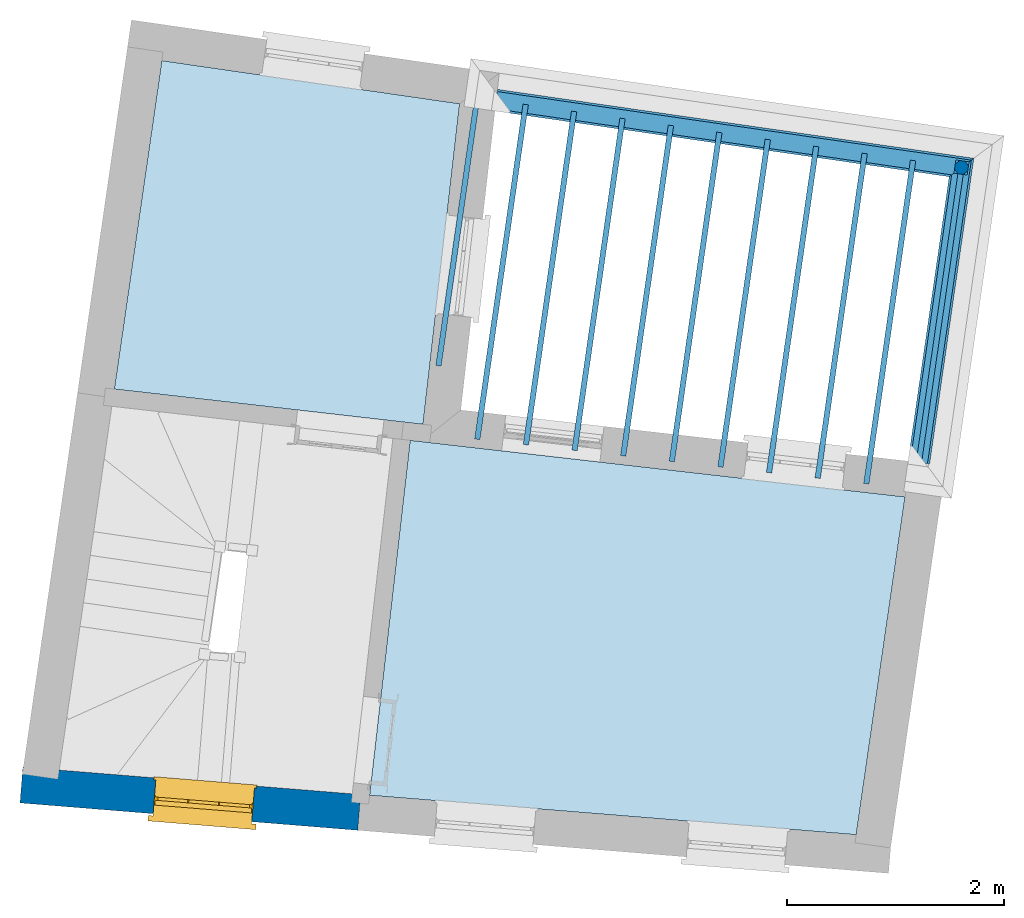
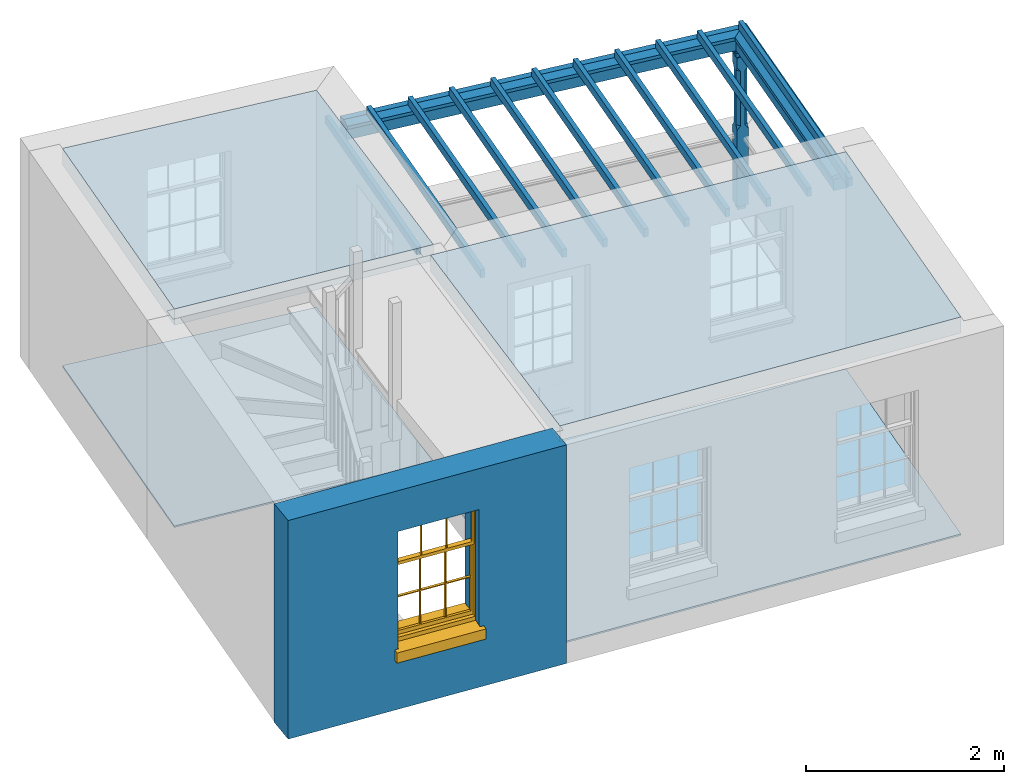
# One storey, part 1 of 5: 15 beams, 4 slabs, 1 column, 1 wall, 1 window, 1 opening.
"""IFC4 building model written with IfcOpenShell, lengths in metres."""

import ifcopenshell
import ifcopenshell.guid

model = None  # the IFC model being written
_history = None  # IfcOwnerHistory: only IFC2X3 demands one
_inside = {}  # id of a spatial element -> (the spatial element, [elements in it])
_under = {}  # id of a project, library or spatial element -> (it, [spatial elements below it])
_declared = {}  # id of a project -> (the project, [libraries it declares])
_typed = {}  # id of a type object -> (the type object, [elements of that type])
_made_of = {}  # id of a material, layer set ... -> (it, [elements and type objects made of it])


def new_model(schema):
    """Start an empty IFC model of exactly this schema.

    Asked for "IFC4X3", IfcOpenShell would pick the latest addendum, in which some entities
    have other attributes; the version numbers below select the first issue.
    IFC2X3 requires an IfcOwnerHistory on every rooted entity: one is made here for all.
    """
    global model, _history
    if schema == "IFC4X3":
        model = ifcopenshell.file(schema_version=(4, 3, 0, 0))
    else:
        model = ifcopenshell.file(schema=schema)
    _inside.clear()
    _under.clear()
    _declared.clear()
    _typed.clear()
    _made_of.clear()
    _history = None
    if model.schema == "IFC2X3":
        org = make("IfcOrganization", Name="unknown")
        user = make(
            "IfcPersonAndOrganization",
            ThePerson=make("IfcPerson", FamilyName="unknown"),
            TheOrganization=org,
        )
        app = make(
            "IfcApplication",
            ApplicationDeveloper=org,
            Version="unknown",
            ApplicationFullName="unknown",
            ApplicationIdentifier="unknown",
        )
        _history = make(
            "IfcOwnerHistory",
            OwningUser=user,
            OwningApplication=app,
            ChangeAction="ADDED",
            CreationDate=0,
        )
    return model


def make(cls, **values):
    """One entity of the class cls with the attributes given. An attribute that is None is left unset."""
    return model.create_entity(
        cls, **{name: value for name, value in values.items() if value is not None}
    )


def rooted(cls, **values):
    """An entity with a GlobalId (a new one), such as an element, a storey or a relation."""
    return make(cls, GlobalId=ifcopenshell.guid.new(), OwnerHistory=_history, **values)


def si_unit(unit_type, name, prefix=None):
    """IfcSIUnit, for example si_unit("LENGTHUNIT", "METRE", prefix="MILLI")."""
    return make("IfcSIUnit", UnitType=unit_type, Prefix=prefix, Name=name)


def assignment(units):
    """IfcUnitAssignment: the units of a project."""
    return None if units is None else make("IfcUnitAssignment", Units=units)


def point(xyz):
    """IfcCartesianPoint."""
    return None if xyz is None else make("IfcCartesianPoint", Coordinates=xyz)


def direction(xyz):
    """IfcDirection."""
    return None if xyz is None else make("IfcDirection", DirectionRatios=xyz)


def frame(location, z_axis=None, x_axis=None):
    """IfcAxis2Placement3D, a coordinate frame: its origin and axes. An axis left out is left unset."""
    return make(
        "IfcAxis2Placement3D",
        Location=point(location),
        Axis=direction(z_axis),
        RefDirection=direction(x_axis),
    )


def origin():
    """The frame at (0, 0, 0) with its axes left unset."""
    return frame((0.0, 0.0, 0.0))


def origin_with_axes():
    """The frame at (0, 0, 0) with the z axis (0, 0, 1) and the x axis (1, 0, 0) written out."""
    return frame((0.0, 0.0, 0.0), z_axis=(0.0, 0.0, 1.0), x_axis=(1.0, 0.0, 0.0))


def place(relative_to, where):
    """IfcLocalPlacement: puts the frame where relative to a parent placement (None: the world)."""
    return make(
        "IfcLocalPlacement", PlacementRelTo=relative_to, RelativePlacement=where
    )


def context(
    kind, dimensions, precision=None, world=None, true_north=None, identifier=None
):
    """IfcGeometricRepresentationContext, for example the 3D "Model" context."""
    return make(
        "IfcGeometricRepresentationContext",
        ContextIdentifier=identifier,
        ContextType=kind,
        CoordinateSpaceDimension=dimensions,
        Precision=precision,
        WorldCoordinateSystem=world,
        TrueNorth=true_north,
    )


def subcontext(parent, identifier, kind, view, scale=None):
    """IfcGeometricRepresentationSubContext, for example "Body" below "Model"."""
    return make(
        "IfcGeometricRepresentationSubContext",
        ContextIdentifier=identifier,
        ContextType=kind,
        ParentContext=parent,
        TargetScale=scale,
        TargetView=view,
    )


def project(units=None, contexts=None):
    """IfcProject with its units and contexts."""
    return rooted(
        "IfcProject",
        Name="project",
        RepresentationContexts=contexts,
        UnitsInContext=assignment(units),
    )


def spatial(cls, under=None, at=None, **own):
    """A site, building, storey or space (cls), placed at a placement, below another one or the project."""
    s = rooted(cls, ObjectPlacement=at, **own)
    if under is not None:
        _under.setdefault(under.id(), (under, []))[1].append(s)
    return s


def polyline(points):
    """IfcPolyline through the points."""
    return make("IfcPolyline", Points=[point(p) for p in points])


def outline(outer, holes=None, kind="AREA"):
    """IfcArbitraryClosedProfileDef: a profile drawn as a closed curve; with holes, ...WithVoids."""
    if holes is None:
        return make("IfcArbitraryClosedProfileDef", ProfileType=kind, OuterCurve=outer)
    return make(
        "IfcArbitraryProfileDefWithVoids",
        ProfileType=kind,
        OuterCurve=outer,
        InnerCurves=holes,
    )


def extrude(swept, where, along, depth):
    """IfcExtrudedAreaSolid: the profile swept, set in the frame where, extruded along a direction by depth."""
    return make(
        "IfcExtrudedAreaSolid",
        SweptArea=swept,
        Position=where,
        ExtrudedDirection=direction(along),
        Depth=depth,
    )


def clip(a, b, op="DIFFERENCE"):
    """IfcBooleanClippingResult: the solid a cut by the half space b."""
    return make(
        "IfcBooleanClippingResult", Operator=op, FirstOperand=a, SecondOperand=b
    )


def halfspace(plane, agree):
    """IfcHalfSpaceSolid: all space on one side of the plane z = 0 of the frame plane."""
    return make(
        "IfcHalfSpaceSolid",
        BaseSurface=make("IfcPlane", Position=plane),
        AgreementFlag=agree,
    )


def faces_of(points, faces, orient=None, outer=None):
    """IfcFace entities. A face is a list of loops; a loop is a list of indices into points, from 0.

    orient and outer hold one flag for each loop. By default every Orientation is true, the
    first loop of a face is its IfcFaceOuterBound and the others are IfcFaceBound.
    """
    made = []
    for i, loops in enumerate(faces):
        bounds = []
        for j, loop in enumerate(loops):
            is_outer = j == 0 if outer is None else outer[i][j]
            bounds.append(
                make(
                    "IfcFaceOuterBound" if is_outer else "IfcFaceBound",
                    Bound=make("IfcPolyLoop", Polygon=[points[k] for k in loop]),
                    Orientation=True if orient is None else orient[i][j],
                )
            )
        made.append(make("IfcFace", Bounds=bounds))
    return made


def faceted_brep(points, faces, orient=None, outer=None, voids=None):
    """IfcFacetedBrep: a solid bounded by flat faces; with voids (closed shells), ...WithVoids."""
    shared = [point(p) for p in points]
    hull = make("IfcClosedShell", CfsFaces=faces_of(shared, faces, orient, outer))
    if voids is None:
        return make("IfcFacetedBrep", Outer=hull)
    return make(
        "IfcFacetedBrepWithVoids",
        Outer=hull,
        Voids=[
            make(cls, CfsFaces=faces_of(shared, fs, o, b)) for cls, fs, o, b in voids
        ],
    )


def shape(context_of_items, identifier, shape_type, items):
    """IfcShapeRepresentation: the items that make up one representation, for example the "Body"."""
    return make(
        "IfcShapeRepresentation",
        ContextOfItems=context_of_items,
        RepresentationIdentifier=identifier,
        RepresentationType=shape_type,
        Items=items,
    )


def source(mapping_origin, context_of_items, identifier, shape_type, items):
    """IfcRepresentationMap: a shape defined once, which mapped items show again and again."""
    return make(
        "IfcRepresentationMap",
        MappingOrigin=mapping_origin,
        MappedRepresentation=shape(context_of_items, identifier, shape_type, items),
    )


def transform(
    local_origin,
    x_axis=None,
    y_axis=None,
    z_axis=None,
    scale=None,
    scale2=None,
    scale3=None,
    uniform=True,
):
    """IfcCartesianTransformationOperator3D, or its non-uniform kind. x_axis, y_axis, z_axis: its Axis1, 2, 3."""
    if uniform:
        return make(
            "IfcCartesianTransformationOperator3D",
            Axis1=direction(x_axis),
            Axis2=direction(y_axis),
            LocalOrigin=point(local_origin),
            Scale=scale,
            Axis3=direction(z_axis),
        )
    return make(
        "IfcCartesianTransformationOperator3DnonUniform",
        Axis1=direction(x_axis),
        Axis2=direction(y_axis),
        LocalOrigin=point(local_origin),
        Scale=scale,
        Axis3=direction(z_axis),
        Scale2=scale2,
        Scale3=scale3,
    )


def mapped(mapping_source, mapping_target):
    """IfcMappedItem: shows the shape of a source again, moved by a transform."""
    return make(
        "IfcMappedItem", MappingSource=mapping_source, MappingTarget=mapping_target
    )


def material(Name=None, Category=None):
    """IfcMaterial."""
    return make("IfcMaterial", Name=Name, Category=Category)


def layer(
    of_material, thickness, ventilated=None, Name=None, Category=None, Priority=None
):
    """IfcMaterialLayer: one layer of a wall or slab, of a material (None: an air gap)."""
    return make(
        "IfcMaterialLayer",
        Material=of_material,
        LayerThickness=thickness,
        IsVentilated=ventilated,
        Name=Name,
        Category=Category,
        Priority=Priority,
    )


def layer_set(layers, Name=None):
    """IfcMaterialLayerSet."""
    return make("IfcMaterialLayerSet", MaterialLayers=layers, LayerSetName=Name)


def layer_usage(for_layer_set, set_direction, sense, offset, extent=None):
    """IfcMaterialLayerSetUsage: how a layer set lies in its element."""
    return make(
        "IfcMaterialLayerSetUsage",
        ForLayerSet=for_layer_set,
        LayerSetDirection=set_direction,
        DirectionSense=sense,
        OffsetFromReferenceLine=offset,
        ReferenceExtent=extent,
    )


def material_profile(
    of_material, cross_section, Name=None, Category=None, Priority=None
):
    """IfcMaterialProfile: a cross section and its material."""
    return make(
        "IfcMaterialProfile",
        Name=Name,
        Material=of_material,
        Profile=cross_section,
        Priority=Priority,
        Category=Category,
    )


def profile_set(profiles, Name=None, composite=None):
    """IfcMaterialProfileSet."""
    return make(
        "IfcMaterialProfileSet",
        Name=Name,
        MaterialProfiles=profiles,
        CompositeProfile=composite,
    )


def profile_usage(for_profile_set, cardinal=None, extent=None):
    """IfcMaterialProfileSetUsage: how a profile set lies along its element."""
    return make(
        "IfcMaterialProfileSetUsage",
        ForProfileSet=for_profile_set,
        CardinalPoint=cardinal,
        ReferenceExtent=extent,
    )


def made_of(thing, what):
    """Note that an element or type object is made of a material, layer set ...; save() writes the relation."""
    if what is not None:
        _made_of.setdefault(what.id(), (what, []))[1].append(thing)
    return thing


def type_object(cls, material=None, **own):
    """A type object (cls), such as IfcWallType, which elements share."""
    return made_of(rooted(cls, **own), material)


def type_shapes(of_type, sources):
    """Give a type object the sources (RepresentationMaps) that its elements show as mapped items."""
    of_type.RepresentationMaps = sources


def element(
    cls,
    number,
    at=None,
    inside=None,
    cuts=None,
    type_object=None,
    material=None,
    context=None,
    identifier="Body",
    shape_type=None,
    held_by="IfcProductDefinitionShape",
    body=None,
    shapes=None,
    **own,
):
    """One element of the class cls, such as IfcWall. Its Tag is "e" and its number.

    at: its placement. inside: the storey or other place that contains it. cuts: it is an
    opening in that element (IfcRelVoidsElement). A single representation is given by context,
    identifier, shape_type and body (its items); several are given by shapes. held_by: the class
    of the entity that holds the representations. save() writes the other relations.
    """
    e = rooted(cls, Tag="e%d" % number, ObjectPlacement=at, **own)
    if body is not None:
        shapes = [shape(context, identifier, shape_type, body)]
    if shapes is not None:
        e.Representation = make(held_by, Representations=shapes)
    if inside is not None:
        _inside.setdefault(inside.id(), (inside, []))[1].append(e)
    if cuts is not None:
        rooted(
            "IfcRelVoidsElement", RelatingBuildingElement=cuts, RelatedOpeningElement=e
        )
    if type_object is not None:
        _typed.setdefault(type_object.id(), (type_object, []))[1].append(e)
    return made_of(e, material)


def fill(opening, filler):
    """IfcRelFillsElement: the door or window that sits in an opening."""
    return rooted(
        "IfcRelFillsElement",
        RelatingOpeningElement=opening,
        RelatedBuildingElement=filler,
    )


def aggregate(whole, parts):
    """IfcRelAggregates: a whole, such as a stair, and the parts it consists of."""
    return rooted("IfcRelAggregates", RelatingObject=whole, RelatedObjects=parts)


def save(model, path):
    """Write the relations noted so far, then the file.

    IfcRelAggregates (storeys below a building ...), IfcRelContainedInSpatialStructure (elements
    in a storey), IfcRelDefinesByType, IfcRelAssociatesMaterial and IfcRelDeclares: one each for
    every whole, place, type object, material and project.
    """
    for whole, parts in _under.values():
        aggregate(whole, parts)
    for where, things in _inside.values():
        rooted(
            "IfcRelContainedInSpatialStructure",
            RelatedElements=things,
            RelatingStructure=where,
        )
    for kind, things in _typed.values():
        rooted("IfcRelDefinesByType", RelatedObjects=things, RelatingType=kind)
    for what, things in _made_of.values():
        rooted("IfcRelAssociatesMaterial", RelatedObjects=things, RelatingMaterial=what)
    for by, libraries in _declared.values():
        rooted("IfcRelDeclares", RelatingContext=by, RelatedDefinitions=libraries)
    model.write(path)


model = new_model("IFC4")

# Units and contexts
model_context = context("Model", 3, world=origin_with_axes())
body_context = subcontext(model_context, "Body", "Model", "MODEL_VIEW")
ifc_project = project(units=[si_unit("PLANEANGLEUNIT", "RADIAN"), si_unit("MASSUNIT", "GRAM", prefix="KILO"), si_unit("FORCEUNIT", "NEWTON", prefix="KILO"), si_unit("LENGTHUNIT", "METRE"), si_unit("AREAUNIT", "SQUARE_METRE"), si_unit("VOLUMEUNIT", "CUBIC_METRE")], contexts=[model_context, model_context])

# Sites, building, storey
site_1_placement = place(None, origin_with_axes())
site_1 = spatial("IfcSite", under=ifc_project, at=site_1_placement, Name="Tamar")
site_2_placement = place(site_1_placement, origin_with_axes())
site_2 = spatial("IfcSite", under=site_1, at=site_2_placement, Name="Site plot-31", CompositionType="ELEMENT")
building_placement = place(None, origin_with_axes())
building = spatial("IfcBuilding", under=site_2, at=building_placement, Name="Building plot-31", CompositionType="ELEMENT")
storey_placement = place(None, frame((0.0, 0.0, 28.65), z_axis=(0.0, 0.0, 1.0), x_axis=(1.0, 0.0, 0.0)))
storey = spatial("IfcBuildingStorey", under=building, at=storey_placement, Name="plot-31 1", CompositionType="ELEMENT", Elevation=28.65)

# Column
column_type = type_object("IfcColumnType", Name="pergola post", PredefinedType="NOTDEFINED")
shared_shape_1 = source(origin(), body_context, "Body", "Brep", [
    faceted_brep([(0.0246, -0.0615, 1.72), (0.0615, -0.0246, 1.72), (0.0615, -0.0615, 1.766667), (0.0615, -0.0246, 1.044444), (0.0246, -0.0615, 1.044444), (0.0615, 0.0246, 1.72), (0.0615, 0.0615, 1.766667), (-0.0246, -0.0615, 1.72), (-0.0615, -0.0615, 1.766667), (-0.0246, -0.0615, 1.044444), (0.0615, -0.0615, 0.997778), (0.0615, 0.0246, 1.044444), (0.0246, 0.0615, 1.72), (0.0615, 0.0615, 1.891111), (0.0615, -0.0615, 1.891111), (-0.0615, -0.0615, 1.891111), (-0.0615, -0.0246, 1.72), (-0.0615, -0.0246, 1.044444), (-0.0615, -0.0615, 0.997778), (0.0615, 0.0615, 0.997778), (0.0246, 0.0615, 1.044444), (-0.0246, 0.0615, 1.72), (-0.0615, 0.0615, 1.766667), (0.04305, 0.04305, 1.891111), (0.04305, -0.04305, 1.891111), (-0.0615, 0.0615, 1.891111), (-0.04305, -0.04305, 1.891111), (-0.0615, 0.0246, 1.72), (-0.0615, 0.0246, 1.044444), (0.0615, -0.0615, 0.053333), (-0.0615, -0.0615, 0.053333), (0.0615, 0.0615, 0.053333), (-0.0246, 0.0615, 1.044444), (-0.04305, 0.04305, 1.891111), (0.04305, 0.04305, 1.914444), (0.04305, -0.04305, 1.914444), (-0.04305, -0.04305, 1.914444), (-0.0615, 0.0615, 0.997778), (-0.0615, 0.0615, 0.053333), (-0.04305, -0.04305, 0.053333), (0.04305, -0.04305, 0.053333), (0.04305, 0.04305, 0.053333), (-0.04305, 0.04305, 1.914444), (0.07995, 0.07995, 1.914444), (0.07995, -0.07995, 1.914444), (-0.07995, -0.07995, 1.914444), (-0.04305, 0.04305, 0.053333), (-0.04305, -0.04305, 0.0), (0.04305, -0.04305, 0.0), (0.04305, 0.04305, 0.0), (-0.07995, 0.07995, 1.914444), (0.07995, 0.07995, 1.976667), (0.07995, -0.07995, 1.976667), (-0.07995, -0.07995, 1.976667), (-0.04305, 0.04305, 0.0), (-0.07995, 0.07995, 1.976667), (0.0984, 0.0984, 1.976667), (0.0984, -0.0984, 1.976667), (-0.0984, -0.0984, 1.976667), (-0.0984, 0.0984, 1.976667), (0.0984, 0.0984, 2.0), (0.0984, -0.0984, 2.0), (-0.0984, -0.0984, 2.0), (-0.0984, 0.0984, 2.0)], [[[0, 1, 2]], [[3, 1, 0, 4]], [[1, 5, 6, 2]], [[7, 0, 2, 8]], [[4, 0, 7, 9]], [[3, 4, 10]], [[1, 3, 11, 5]], [[5, 12, 6]], [[13, 14, 2, 6]], [[15, 8, 2, 14]], [[8, 16, 7]], [[9, 7, 16, 17]], [[9, 18, 10, 4]], [[3, 10, 19, 11]], [[20, 12, 5, 11]], [[21, 22, 6, 12]], [[14, 13, 23, 24]], [[13, 6, 22, 25]], [[25, 22, 8, 15]], [[26, 15, 14, 24]], [[16, 8, 22, 27]], [[27, 28, 17, 16]], [[17, 18, 9]], [[29, 10, 18, 30]], [[31, 19, 10, 29]], [[20, 11, 19]], [[12, 20, 32, 21]], [[21, 27, 22]], [[33, 23, 13, 25]], [[23, 34, 35, 24]], [[26, 33, 25, 15]], [[36, 26, 24, 35]], [[28, 27, 21, 32]], [[17, 28, 37, 18]], [[38, 30, 18, 37]], [[29, 30, 39, 40]], [[31, 38, 37, 19]], [[40, 41, 31, 29]], [[32, 20, 19, 37]], [[33, 42, 34, 23]], [[43, 44, 35, 34]], [[42, 33, 26, 36]], [[36, 35, 44, 45]], [[28, 32, 37]], [[46, 39, 30, 38]], [[39, 47, 48, 40]], [[46, 38, 31, 41]], [[49, 41, 40, 48]], [[43, 34, 42, 50]], [[43, 51, 52, 44]], [[45, 50, 42, 36]], [[53, 45, 44, 52]], [[46, 54, 47, 39]], [[54, 46, 41, 49]], [[50, 55, 51, 43]], [[56, 57, 52, 51]], [[55, 50, 45, 53]], [[53, 52, 57, 58]], [[56, 51, 55, 59]], [[56, 60, 61, 57]], [[58, 59, 55, 53]], [[62, 58, 57, 61]], [[59, 63, 60, 56]], [[63, 62, 61, 60]], [[58, 62, 63, 59]], [[47, 54, 49, 48]]]),
])
type_shapes(column_type, [shared_shape_1])
column_placement = place(storey_placement, frame((300.849616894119, 263.500744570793, 0.0), z_axis=(0.0, 0.0, 1.0), x_axis=(-0.989705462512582, 0.143119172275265, 0.0)))
element("IfcColumn", 1, at=column_placement, inside=storey, type_object=column_type, Name="pergola post", context=body_context, shape_type="MappedRepresentation", body=[
    mapped(shared_shape_1, transform((0.0, 0.0, 0.0), scale=1.0)),
])

# Beams
ifc_material_profile_1 = material_profile(None, outline(polyline([(-0.08, -0.7), (0.08, -0.7), (0.08, -0.56), (-0.08, -0.56), (-0.08, -0.7)])))
ifc_profile_set_1 = profile_set([ifc_material_profile_1])
ifc_profile_usage_1 = profile_usage(ifc_profile_set_1)
beam_type_1 = type_object("IfcBeamType", Name="pergola beam_0", PredefinedType="NOTDEFINED", material=ifc_profile_set_1)
beam_1_placement = place(storey_placement, frame((300.992736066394, 264.490450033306, 2.7), z_axis=(-0.143119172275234, -0.989705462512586, 0.0), x_axis=(0.989705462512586, -0.143119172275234, 0.0)))
element("IfcBeam", 2, at=beam_1_placement, inside=storey, type_object=beam_type_1, material=ifc_profile_usage_1, Name="pergola beam_0", context=body_context, shape_type="Clipping", body=[
    clip(clip(extrude(outline(polyline([(-0.08, -0.7), (0.08, -0.7), (0.08, -0.56), (-0.08, -0.56), (-0.08, -0.7)])), origin_with_axes(), (0.0, 0.0, 1.0), 4.74029362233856), halfspace(frame((0.0, 0.0, 3.74029362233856), z_axis=(1.59259792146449e-14, 0.0, -1.0), x_axis=(0.0, 1.0, 0.0)), True)), halfspace(frame((0.0, 0.0, 1.0), z_axis=(-0.707106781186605, 0.0, -0.707106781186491), x_axis=(0.0, 1.0, 0.0)), False)),
])
ifc_profile_usage_2 = profile_usage(ifc_profile_set_1)
beam_2_placement = place(storey_placement, frame((295.579928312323, 264.262782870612, 2.7), z_axis=(0.989705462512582, -0.143119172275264, 0.0), x_axis=(0.143119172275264, 0.989705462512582, 0.0)))
element("IfcBeam", 3, at=beam_2_placement, inside=storey, type_object=beam_type_1, material=ifc_profile_usage_2, Name="pergola beam_0", context=body_context, shape_type="Clipping", body=[
    clip(clip(extrude(outline(polyline([(-0.08, -0.7), (0.08, -0.7), (0.08, -0.56), (-0.08, -0.56), (-0.08, -0.7)])), origin_with_axes(), (0.0, 0.0, 1.0), 6.32450186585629), halfspace(frame((0.0, 0.0, 5.32450186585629), z_axis=(0.707106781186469, 0.0, -0.707106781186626), x_axis=(0.0, 1.0, 0.0)), True)), halfspace(frame((0.0, 0.0, 1.0), z_axis=(-1.47161762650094e-14, 0.0, -1.0), x_axis=(0.0, 1.0, 0.0)), False)),
])
ifc_material_profile_2 = material_profile(None, outline(polyline([(0.0, -0.5), (-0.1, -0.52), (-0.1, -0.56), (0.1, -0.56), (0.1, -0.52), (0.0, -0.5)])))
ifc_profile_set_2 = profile_set([ifc_material_profile_2])
ifc_profile_usage_3 = profile_usage(ifc_profile_set_2)
beam_type_2 = type_object("IfcBeamType", Name="pergola beam_1", PredefinedType="NOTDEFINED", material=ifc_profile_set_2)
beam_3_placement = place(storey_placement, frame((300.992736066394, 264.490450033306, 2.7), z_axis=(-0.143119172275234, -0.989705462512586, 0.0), x_axis=(0.989705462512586, -0.143119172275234, 0.0)))
element("IfcBeam", 4, at=beam_3_placement, inside=storey, type_object=beam_type_2, material=ifc_profile_usage_3, Name="pergola beam_1", context=body_context, shape_type="Clipping", body=[
    clip(clip(extrude(outline(polyline([(0.0, -0.5), (-0.1, -0.52), (-0.1, -0.56), (0.1, -0.56), (0.1, -0.52), (0.0, -0.5)])), origin_with_axes(), (0.0, 0.0, 1.0), 4.74029362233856), halfspace(frame((0.0, 0.0, 3.74029362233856), z_axis=(1.59259792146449e-14, 0.0, -1.0), x_axis=(0.0, 1.0, 0.0)), True)), halfspace(frame((0.0, 0.0, 1.0), z_axis=(-0.707106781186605, 0.0, -0.707106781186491), x_axis=(0.0, 1.0, 0.0)), False)),
])
ifc_profile_usage_4 = profile_usage(ifc_profile_set_2)
beam_4_placement = place(storey_placement, frame((295.579928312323, 264.262782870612, 2.7), z_axis=(0.989705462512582, -0.143119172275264, 0.0), x_axis=(0.143119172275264, 0.989705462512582, 0.0)))
element("IfcBeam", 5, at=beam_4_placement, inside=storey, type_object=beam_type_2, material=ifc_profile_usage_4, Name="pergola beam_1", context=body_context, shape_type="Clipping", body=[
    clip(clip(extrude(outline(polyline([(0.0, -0.5), (-0.1, -0.52), (-0.1, -0.56), (0.1, -0.56), (0.1, -0.52), (0.0, -0.5)])), origin_with_axes(), (0.0, 0.0, 1.0), 6.32450186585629), halfspace(frame((0.0, 0.0, 5.32450186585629), z_axis=(0.707106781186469, 0.0, -0.707106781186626), x_axis=(0.0, 1.0, 0.0)), True)), halfspace(frame((0.0, 0.0, 1.0), z_axis=(-1.47161762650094e-14, 0.0, -1.0), x_axis=(0.0, 1.0, 0.0)), False)),
])
beam_5_placement = place(storey_placement, frame((300.874359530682, 263.497166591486, 2.2)))
element("IfcBeam", 6, at=beam_5_placement, inside=storey, Name="My Beam", ObjectType="Beam", context=body_context, shape_type="SweptSolid", body=[
    extrude(outline(polyline([(0.0, 0.0), (-0.0494852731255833, 0.0071559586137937), (-0.477453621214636, -2.95235397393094), (-0.427968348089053, -2.95950993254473), (0.0, 0.0)])), origin_with_axes(), (0.0, 0.0, 1.0), 0.1),
])
beam_6_placement = place(storey_placement, frame((300.428992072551, 263.56157021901, 2.2)))
element("IfcBeam", 7, at=beam_6_placement, inside=storey, Name="My Beam", ObjectType="Beam", context=body_context, shape_type="SweptSolid", body=[
    extrude(outline(polyline([(0.0, 0.0), (-0.0494852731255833, 0.0071559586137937), (-0.479377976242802, -2.96566137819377), (-0.429892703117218, -2.97281733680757), (0.0, 0.0)])), origin_with_axes(), (0.0, 0.0, 1.0), 0.1),
])
beam_7_placement = place(storey_placement, frame((299.98362461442, 263.625973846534, 2.2)))
element("IfcBeam", 8, at=beam_7_placement, inside=storey, Name="My Beam", ObjectType="Beam", context=body_context, shape_type="SweptSolid", body=[
    extrude(outline(polyline([(0.0, 0.0), (-0.0494852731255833, 0.0071559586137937), (-0.481302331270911, -2.97896878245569), (-0.431817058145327, -2.98612474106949), (0.0, 0.0)])), origin_with_axes(), (0.0, 0.0, 1.0), 0.1),
])
beam_8_placement = place(storey_placement, frame((299.53825715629, 263.690377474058, 2.2)))
element("IfcBeam", 9, at=beam_8_placement, inside=storey, Name="My Beam", ObjectType="Beam", context=body_context, shape_type="SweptSolid", body=[
    extrude(outline(polyline([(0.0, 0.0), (-0.0494852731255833, 0.0071559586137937), (-0.483226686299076, -2.99227618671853), (-0.433741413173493, -2.99943214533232), (0.0, 0.0)])), origin_with_axes(), (0.0, 0.0, 1.0), 0.1),
])
beam_9_placement = place(storey_placement, frame((299.092889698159, 263.754781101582, 2.2)))
element("IfcBeam", 10, at=beam_9_placement, inside=storey, Name="My Beam", ObjectType="Beam", context=body_context, shape_type="SweptSolid", body=[
    extrude(outline(polyline([(0.0, 0.0), (-0.0494852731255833, 0.0071559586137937), (-0.485151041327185, -3.0055835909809), (-0.435665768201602, -3.0127395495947), (0.0, 0.0)])), origin_with_axes(), (0.0, 0.0, 1.0), 0.1),
])
beam_10_placement = place(storey_placement, frame((298.647522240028, 263.819184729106, 2.2)))
element("IfcBeam", 11, at=beam_10_placement, inside=storey, Name="My Beam", ObjectType="Beam", context=body_context, shape_type="SweptSolid", body=[
    extrude(outline(polyline([(0.0, 0.0), (-0.0494852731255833, 0.0071559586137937), (-0.487075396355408, -3.01889099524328), (-0.437590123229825, -3.02604695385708), (0.0, 0.0)])), origin_with_axes(), (0.0, 0.0, 1.0), 0.1),
])
beam_11_placement = place(storey_placement, frame((298.202154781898, 263.88358835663, 2.2)))
element("IfcBeam", 12, at=beam_11_placement, inside=storey, Name="My Beam", ObjectType="Beam", context=body_context, shape_type="SweptSolid", body=[
    extrude(outline(polyline([(0.0, 0.0), (-0.0494852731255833, 0.0071559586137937), (-0.488999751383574, -3.03219839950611), (-0.439514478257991, -3.03935435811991), (0.0, 0.0)])), origin_with_axes(), (0.0, 0.0, 1.0), 0.1),
])
beam_12_placement = place(storey_placement, frame((297.756787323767, 263.947991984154, 2.2)))
element("IfcBeam", 13, at=beam_12_placement, inside=storey, Name="My Beam", ObjectType="Beam", context=body_context, shape_type="SweptSolid", body=[
    extrude(outline(polyline([(0.0, 0.0), (-0.0494852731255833, 0.0071559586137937), (-0.49092410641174, -3.04550580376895), (-0.441438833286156, -3.05266176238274), (0.0, 0.0)])), origin_with_axes(), (0.0, 0.0, 1.0), 0.1),
])
beam_13_placement = place(storey_placement, frame((297.311419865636, 264.012395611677, 2.2)))
element("IfcBeam", 14, at=beam_13_placement, inside=storey, Name="My Beam", ObjectType="Beam", context=body_context, shape_type="SweptSolid", body=[
    extrude(outline(polyline([(0.0, 0.0), (-0.0494852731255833, 0.0071559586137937), (-0.492848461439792, -3.05881320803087), (-0.443363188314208, -3.06596916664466), (0.0, 0.0)])), origin_with_axes(), (0.0, 0.0, 1.0), 0.1),
])
beam_14_placement = place(storey_placement, frame((296.866052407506, 264.076799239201, 2.2)))
element("IfcBeam", 15, at=beam_14_placement, inside=storey, Name="My Beam", ObjectType="Beam", context=body_context, shape_type="SweptSolid", body=[
    extrude(outline(polyline([(0.0, 0.0), (-0.0494852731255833, 0.0071559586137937), (-0.494772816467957, -3.07212061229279), (-0.445287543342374, -3.07927657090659), (0.0, 0.0)])), origin_with_axes(), (0.0, 0.0, 1.0), 0.1),
])
beam_15_placement = place(storey_placement, frame((296.420684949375, 264.141202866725, 2.2)))
element("IfcBeam", 16, at=beam_15_placement, inside=storey, Name="My Beam", ObjectType="Beam", context=body_context, shape_type="SweptSolid", body=[
    extrude(outline(polyline([(0.0, 0.0), (-0.0494852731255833, 0.0071559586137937), (-0.406338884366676, -2.46057748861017), (-0.356853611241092, -2.46773344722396), (0.0, 0.0)])), origin_with_axes(), (0.0, 0.0, 1.0), 0.1),
])

# Slabs
slab_1_placement = place(storey_placement, frame((300.330675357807, 260.471106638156, 2.5)))
element("IfcSlab", 17, at=slab_1_placement, inside=storey, Name="My Slab", ObjectType="Slab", PredefinedType="FLOOR", context=body_context, shape_type="SweptSolid", body=[
    extrude(outline(polyline([(0.0, 0.0), (-4.55208858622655, 0.52000624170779), (-4.92496413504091, -2.74411328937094), (-0.449277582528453, -3.10686870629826), (0.0, 0.0)])), origin_with_axes(), (0.0, 0.0, 1.0), 0.2),
])
slab_2_placement = place(storey_placement, frame((300.330675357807, 260.471106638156, 0.0)))
element("IfcSlab", 18, at=slab_2_placement, inside=storey, Name="My Slab", ObjectType="Slab", PredefinedType="FLOOR", context=body_context, shape_type="SweptSolid", body=[
    extrude(outline(polyline([(0.0, 0.0), (-4.55208858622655, 0.52000624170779), (-4.92496413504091, -2.74411328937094), (-0.449277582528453, -3.10686870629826), (0.0, 0.0)])), origin_with_axes(), (0.0, 0.0, 1.0), 0.02),
])
slab_3_placement = place(storey_placement, frame((296.233911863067, 264.087379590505, 2.5)))
element("IfcSlab", 19, at=slab_3_placement, inside=storey, Name="My Slab", ObjectType="Slab", PredefinedType="FLOOR", context=body_context, shape_type="SweptSolid", body=[
    extrude(outline(polyline([(0.0, 0.0), (-2.73935903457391, 0.396132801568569), (-3.17615368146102, -2.62441323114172), (-0.336850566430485, -2.94876002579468), (0.0, 0.0)])), origin_with_axes(), (0.0, 0.0, 1.0), 0.2),
])
slab_4_placement = place(storey_placement, frame((296.233911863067, 264.087379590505, 0.0)))
element("IfcSlab", 20, at=slab_4_placement, inside=storey, Name="My Slab", ObjectType="Slab", PredefinedType="FLOOR", context=body_context, shape_type="SweptSolid", body=[
    extrude(outline(polyline([(0.0, 0.0), (-2.73935903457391, 0.396132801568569), (-3.17615368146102, -2.62441323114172), (-0.336850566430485, -2.94876002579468), (0.0, 0.0)])), origin_with_axes(), (0.0, 0.0, 1.0), 0.02),
])

# Wall, opening, window
ifc_material = material(Name="Masonry")
ifc_layer = layer(ifc_material, 0.33, ventilated=False)
ifc_layer_set = layer_set([ifc_layer], Name="exterior_0.08_0.25")
ifc_layer_usage = layer_usage(ifc_layer_set, "AXIS2", "POSITIVE", -0.25)
wall_type = type_object("IfcWallType", Name="exterior_0.08_0.25", PredefinedType="SOLIDWALL", material=ifc_layer_set)
wall_placement = place(storey_placement, frame((292.459598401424, 257.885514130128, 0.0), z_axis=(0.0, 0.0, 1.0), x_axis=(0.996731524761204, -0.0807853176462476, 0.0)))
wall = element("IfcWall", 21, at=wall_placement, inside=storey, type_object=wall_type, material=ifc_layer_usage, Name="exterior", context=body_context, shape_type="SweptSolid", body=[
    extrude(outline(polyline([(-0.249999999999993, 0.0800000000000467), (-0.25000000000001, -0.249999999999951), (2.86661604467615, -0.249999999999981), (2.86661604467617, 0.0800000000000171), (-0.249999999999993, 0.0800000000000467)])), origin_with_axes(), (0.0, 0.0, 1.0), 2.7),
])
opening_placement = place(wall_placement, frame((0.978308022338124, 0.0, 0.75)))
opening = element("IfcOpeningElement", 22, at=opening_placement, cuts=wall, Name="My Opening", ObjectType="Opening", context=body_context, shape_type="SweptSolid", body=[
    extrude(outline(polyline([(0.0, -0.270000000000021), (0.909999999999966, -0.26999999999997), (0.909999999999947, 1.10000000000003), (-1.97619698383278e-14, 1.09999999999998), (0.0, -0.270000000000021)])), origin_with_axes(), (0.0, 0.0, 1.0), 1.445),
])
window_type = type_object("IfcWindowType", Name="sash_shorter", PartitioningType="DOUBLE_PANEL_HORIZONTAL", PredefinedType="NOTDEFINED")
shared_shape_2 = source(origin(), body_context, "Body", "Brep", [
    faceted_brep([(0.876875, 0.145, 0.999097), (0.876875, 0.145, 1.411875), (0.9, 0.145, 1.435), (0.033125, 0.145, 1.411875), (0.033125, 0.145, 0.999097), (0.01, 0.145, 1.435), (0.033125, 0.115, 1.411875), (0.01, 0.115, 1.435), (0.033125, 0.115, 0.999097), (0.876875, 0.115, 1.411875), (0.876875, 0.115, 0.999097), (0.9, 0.115, 1.435), (0.033125, 0.145, 0.960972), (0.01, 0.145, 0.960972), (0.033125, 0.145, 0.548195), (0.876875, 0.145, 0.960972), (0.876875, 0.145, 0.548195), (0.9, 0.145, 0.960972), (0.876875, 0.145, 0.538195), (0.876875, 0.145, 0.125417), (0.9, 0.145, 0.077167), (0.033125, 0.145, 0.125417), (0.033125, 0.145, 0.538195), (0.01, 0.145, 0.077167), (0.9, 0.115, 0.960972), (0.01, 0.115, 0.960972), (-0.0425, 0.0, 0.01), (-0.0425, -0.05, 0.001667), (0.0, 0.0, 0.01), (0.9525, 0.0, 0.01), (0.91, 0.0, 0.01), (0.9525, -0.05, 0.001667), (-0.02, 0.33, 0.077167), (0.0, 0.33, 0.077167), (-0.02, 0.36, 0.077167), (0.0, 0.19, 0.077167), (0.01, 0.19, 0.077167), (0.91, 0.19, 0.077167), (0.91, 0.33, 0.077167), (0.9, 0.19, 0.077167), (0.93, 0.33, 0.077167), (0.93, 0.36, 0.077167), (0.01, 0.145, 0.999097), (0.01, 0.175, 0.999097), (0.9, 0.145, 0.999097), (0.9, 0.175, 0.999097), (0.876875, 0.175, 0.125417), (0.876875, 0.175, 0.538195), (0.9, 0.175, 0.077167), (0.876875, 0.175, 0.548195), (0.876875, 0.175, 0.960972), (0.033125, 0.175, 0.125417), (0.01, 0.175, 0.077167), (0.033125, 0.175, 0.538195), (0.033125, 0.175, 0.960972), (0.033125, 0.175, 0.548195), (-0.02, 0.33, 0.052167), (-0.02, 0.36, 0.052167), (0.93, 0.36, 0.052167), (0.93, 0.33, 0.052167), (0.91, 0.33, 0.052167), (0.0, 0.33, 0.052167), (0.91, 0.1, 0.026667), (0.0, 0.1, 0.026667), (-0.0425, -0.05, -0.123333), (0.9525, -0.05, -0.123333), (-0.0425, 0.0, -0.123333), (0.9525, 0.0, -0.123333), (0.01, 0.19, 1.435), (0.9, 0.19, 1.435), (0.0, 0.19, 1.445), (0.91, 0.19, 1.445), (0.01, 0.1, 0.077167), (0.9, 0.1, 0.077167), (0.592292, 0.145, 0.125417), (0.592292, 0.175, 0.125417), (0.317708, 0.175, 0.125417), (0.317708, 0.145, 0.125417), (0.592292, 0.145, 0.548195), (0.317708, 0.145, 0.548195), (0.317708, 0.145, 0.538195), (0.592292, 0.145, 0.538195), (0.592292, 0.175, 0.548195), (0.317708, 0.175, 0.548195), (0.602292, 0.175, 0.548195), (0.602292, 0.145, 0.548195), (0.317708, 0.175, 0.538195), (0.307708, 0.175, 0.125417), (0.307708, 0.175, 0.538195), (0.602292, 0.175, 0.538195), (0.602292, 0.175, 0.125417), (0.592292, 0.175, 0.538195), (0.307708, 0.175, 0.548195), (0.317708, 0.175, 0.960972), (0.307708, 0.175, 0.960972), (0.602292, 0.175, 0.960972), (0.592292, 0.175, 0.960972), (0.307708, 0.145, 0.538195), (0.307708, 0.145, 0.125417), (0.307708, 0.145, 0.548195), (0.307708, 0.145, 0.960972), (0.592292, 0.145, 0.960972), (0.317708, 0.145, 0.960972), (0.602292, 0.145, 0.960972), (0.602292, 0.145, 0.538195), (0.602292, 0.145, 0.125417), (0.317708, 0.115, 1.411875), (0.307708, 0.115, 1.411875), (0.307708, 0.115, 0.999097), (0.317708, 0.115, 0.999097), (0.602292, 0.115, 1.411875), (0.592292, 0.115, 1.411875), (0.592292, 0.115, 0.999097), (0.602292, 0.115, 0.999097), (0.317708, 0.145, 0.999097), (0.307708, 0.145, 0.999097), (0.307708, 0.145, 1.411875), (0.317708, 0.145, 1.411875), (0.602292, 0.145, 0.999097), (0.592292, 0.145, 0.999097), (0.592292, 0.145, 1.411875), (0.602292, 0.145, 1.411875), (0.91, 0.1, 1.445), (0.9, 0.1, 1.435), (0.01, 0.1, 1.435), (0.0, 0.1, 1.445), (0.91, 0.0, 0.0), (0.0, 0.0, 0.0), (0.91, 0.33, 0.0), (0.0, 0.33, 0.0)], [[[0, 1, 2]], [[3, 4, 5]], [[6, 7, 8]], [[9, 10, 11]], [[12, 13, 14]], [[15, 16, 17]], [[18, 19, 20]], [[21, 22, 23]], [[24, 15, 17]], [[13, 12, 25]], [[26, 27, 28]], [[29, 30, 31]], [[32, 33, 34]], [[35, 36, 33]], [[37, 38, 39]], [[40, 41, 38]], [[42, 4, 43]], [[44, 45, 0]], [[46, 47, 48]], [[49, 50, 45]], [[51, 52, 53]], [[54, 55, 43]], [[38, 33, 36, 39]], [[41, 34, 33, 38]], [[56, 32, 34, 57]], [[57, 34, 41, 58]], [[58, 41, 40, 59]], [[57, 58, 60, 61]], [[52, 48, 39, 36]], [[62, 63, 28, 30]], [[27, 31, 30, 28]], [[27, 64, 65, 31]], [[66, 67, 65, 64]], [[2, 5, 68, 69]], [[68, 70, 71, 69]], [[20, 23, 72, 73]], [[73, 72, 63, 62]], [[74, 75, 76, 77]], [[78, 79, 80, 81]], [[78, 82, 83, 79]], [[16, 49, 84, 85]], [[86, 76, 87, 88]], [[89, 90, 75, 91]], [[92, 88, 53, 55]], [[82, 91, 86, 83]], [[93, 83, 92, 94]], [[95, 84, 82, 96]], [[89, 84, 49, 47]], [[97, 88, 87, 98]], [[22, 53, 88, 97]], [[81, 91, 75, 74]], [[80, 86, 91, 81]], [[77, 76, 86, 80]], [[99, 92, 55, 14]], [[100, 94, 92, 99]], [[101, 96, 82, 78]], [[79, 83, 93, 102]], [[85, 84, 95, 103]], [[104, 89, 47, 18]], [[105, 90, 89, 104]], [[104, 18, 16, 85]], [[80, 97, 98, 77]], [[104, 81, 74, 105]], [[103, 101, 78, 85]], [[99, 14, 22, 97]], [[102, 100, 99, 79]], [[106, 107, 108, 109]], [[110, 111, 112, 113]], [[114, 115, 116, 117]], [[118, 119, 120, 121]], [[107, 116, 115, 108]], [[111, 120, 119, 112]], [[109, 114, 117, 106]], [[113, 118, 121, 110]], [[85, 78, 81, 104]], [[84, 89, 91, 82]], [[83, 86, 88, 92]], [[79, 99, 97, 80]], [[109, 112, 119, 114]], [[102, 93, 96, 101]], [[106, 117, 120, 111]], [[98, 87, 51, 21]], [[6, 3, 116, 107]], [[110, 121, 1, 9]], [[19, 46, 90, 105]], [[26, 66, 64, 27]], [[29, 31, 65, 67]], [[25, 24, 112, 109]], [[11, 7, 106, 111]], [[75, 48, 52, 76]], [[43, 45, 96, 93]], [[45, 43, 114, 119]], [[5, 2, 120, 117]], [[24, 25, 102, 101]], [[42, 5, 4]], [[2, 44, 0]], [[49, 45, 48, 47]], [[52, 43, 55, 53]], [[14, 13, 23, 22]], [[20, 17, 16, 18]], [[24, 11, 10]], [[25, 8, 7]], [[8, 4, 3, 6]], [[9, 1, 0, 10]], [[15, 50, 49, 16]], [[18, 47, 46, 19]], [[21, 51, 53, 22]], [[14, 55, 54, 12]], [[44, 2, 69, 45]], [[68, 5, 42, 43]], [[36, 35, 70, 68]], [[39, 69, 71, 37]], [[62, 122, 123, 73]], [[63, 72, 124, 125]], [[8, 108, 115, 4]], [[113, 10, 0, 118]], [[94, 100, 12, 54]], [[17, 20, 73, 24]], [[72, 23, 13, 25]], [[52, 36, 68, 43]], [[69, 39, 48, 45]], [[11, 24, 73, 123]], [[7, 124, 72, 25]], [[23, 77, 98]], [[98, 21, 23]], [[105, 74, 20]], [[20, 19, 105]], [[20, 74, 77, 23]], [[113, 112, 24]], [[24, 10, 113]], [[25, 109, 108]], [[108, 8, 25]], [[110, 9, 11]], [[11, 111, 110]], [[7, 6, 107]], [[107, 106, 7]], [[5, 117, 116]], [[116, 3, 5]], [[121, 120, 2]], [[2, 1, 121]], [[11, 123, 124, 7]], [[122, 125, 124, 123]], [[43, 93, 94]], [[94, 54, 43]], [[96, 45, 95]], [[50, 95, 45]], [[15, 103, 95, 50]], [[48, 75, 90]], [[90, 46, 48]], [[87, 76, 52]], [[52, 51, 87]], [[103, 15, 24]], [[24, 101, 103]], [[100, 102, 25]], [[25, 12, 100]], [[115, 114, 43]], [[43, 4, 115]], [[118, 0, 45]], [[45, 119, 118]], [[71, 70, 125, 122]], [[70, 35, 63, 125]], [[122, 62, 37, 71]], [[126, 67, 66, 127]], [[60, 58, 59]], [[38, 60, 59, 40]], [[61, 56, 57]], [[32, 56, 61, 33]], [[61, 60, 128, 129]], [[62, 60, 38, 37]], [[126, 128, 60, 62]], [[33, 61, 63, 35]], [[61, 129, 127, 63]], [[128, 126, 127, 129]], [[28, 127, 66, 26]], [[63, 127, 28]], [[29, 67, 126, 30]], [[30, 126, 62]]]),
])
type_shapes(window_type, [shared_shape_2])
window_placement = place(storey_placement, frame((293.412896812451, 257.537363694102, 0.75), z_axis=(0.0, 0.0, 1.0), x_axis=(0.907025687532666, -0.0735146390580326, 0.0)))
window = element("IfcWindow", 23, at=window_placement, inside=storey, type_object=window_type, Name="circulation outside window", OverallHeight=1.445, OverallWidth=0.91, context=body_context, shape_type="MappedRepresentation", body=[
    mapped(shared_shape_2, transform((0.0, 0.0, 0.0), scale=1.0)),
])
fill(opening, window)

save(model, "model.ifc")
